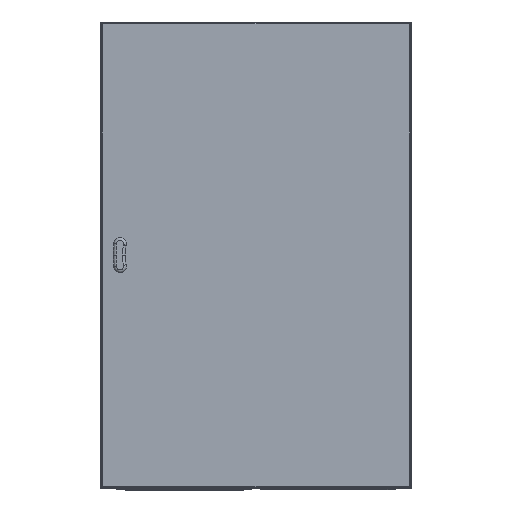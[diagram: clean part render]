
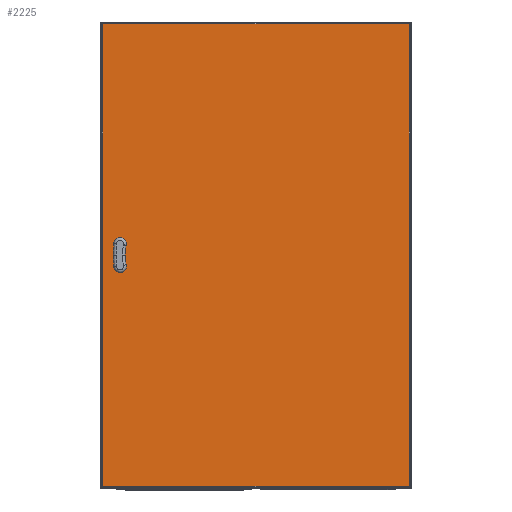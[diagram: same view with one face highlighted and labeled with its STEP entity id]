
A CAD part, top view. The second image highlights one B-rep face of the part: STEP entity #2225.
In plain terms, the highlighted planar face has unit normal (0, 0, 1) as drawn and (0, 0, -1) by its records, which use the part's own axes.
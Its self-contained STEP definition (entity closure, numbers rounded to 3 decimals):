
#33 = ORIENTED_EDGE ( 'NONE', *, *, #7364, .F. ) ;
#1031 = DIRECTION ( 'NONE',  ( 0., 0., -1. ) ) ;
#1175 = VECTOR ( 'NONE', #21022, 1000. ) ;
#1482 = PLANE ( 'NONE',  #7186 ) ;
#1913 = EDGE_CURVE ( 'NONE', #15333, #16109, #8285, .T. ) ;
#1915 = EDGE_CURVE ( 'NONE', #26753, #15801, #20453, .T. ) ;
#2225 = ADVANCED_FACE ( 'NONE', ( #3331, #15039 ), #1482, .T. ) ;
#2304 = ORIENTED_EDGE ( 'NONE', *, *, #1915, .T. ) ;
#3331 = FACE_BOUND ( 'NONE', #19597, .T. ) ;
#3387 = LINE ( 'NONE', #26487, #18587 ) ;
#3966 = VECTOR ( 'NONE', #16056, 1000. ) ;
#4436 = CARTESIAN_POINT ( 'NONE',  ( 395., 595., 0. ) ) ;
#4693 = CARTESIAN_POINT ( 'NONE',  ( -395., 597.5, 0. ) ) ;
#4793 = CARTESIAN_POINT ( 'NONE',  ( 362.5, -25., 0. ) ) ;
#5198 = CARTESIAN_POINT ( 'NONE',  ( 395., -597.5, 0. ) ) ;
#5204 = EDGE_CURVE ( 'NONE', #12394, #15333, #21651, .T. ) ;
#5261 = ORIENTED_EDGE ( 'NONE', *, *, #28775, .T. ) ;
#5335 = ORIENTED_EDGE ( 'NONE', *, *, #1913, .F. ) ;
#5770 = DIRECTION ( 'NONE',  ( 0., 1., 0. ) ) ;
#6262 = CARTESIAN_POINT ( 'NONE',  ( 362.5, 25., 0. ) ) ;
#6558 = CARTESIAN_POINT ( 'NONE',  ( 395., -595., 0. ) ) ;
#6689 = CARTESIAN_POINT ( 'NONE',  ( -397.5, -595., 0. ) ) ;
#7186 = AXIS2_PLACEMENT_3D ( 'NONE', #10906, #1031, #15496 ) ;
#7364 = EDGE_CURVE ( 'NONE', #11280, #12394, #3387, .T. ) ;
#7564 = CARTESIAN_POINT ( 'NONE',  ( -395., 595., 0. ) ) ;
#8127 = VECTOR ( 'NONE', #11080, 1000. ) ;
#8226 = CARTESIAN_POINT ( 'NONE',  ( 337.5, 25., 0. ) ) ;
#8285 = LINE ( 'NONE', #10773, #8127 ) ;
#9405 = EDGE_LOOP ( 'NONE', ( #28805, #2304, #23822, #5261 ) ) ;
#9676 = DIRECTION ( 'NONE',  ( 0., -1., 0. ) ) ;
#10258 = CARTESIAN_POINT ( 'NONE',  ( 337.5, 25., 0. ) ) ;
#10474 = DIRECTION ( 'NONE',  ( 1., 0., 0. ) ) ;
#10773 = CARTESIAN_POINT ( 'NONE',  ( 362.5, 25., 0. ) ) ;
#10906 = CARTESIAN_POINT ( 'NONE',  ( 397.5, 597.5, 0. ) ) ;
#11032 = EDGE_CURVE ( 'NONE', #15801, #18901, #11830, .T. ) ;
#11080 = DIRECTION ( 'NONE',  ( 1., 0., 0. ) ) ;
#11202 = VECTOR ( 'NONE', #5770, 1000. ) ;
#11280 = VERTEX_POINT ( 'NONE', #4793 ) ;
#11830 = LINE ( 'NONE', #5198, #26466 ) ;
#12394 = VERTEX_POINT ( 'NONE', #18222 ) ;
#12781 = DIRECTION ( 'NONE',  ( -1., 0., 0. ) ) ;
#13066 = CARTESIAN_POINT ( 'NONE',  ( 397.5, 595., 0. ) ) ;
#13501 = DIRECTION ( 'NONE',  ( 0., -1., 0. ) ) ;
#15039 = FACE_OUTER_BOUND ( 'NONE', #9405, .T. ) ;
#15333 = VERTEX_POINT ( 'NONE', #8226 ) ;
#15496 = DIRECTION ( 'NONE',  ( -1., 0., 0. ) ) ;
#15801 = VERTEX_POINT ( 'NONE', #4436 ) ;
#15811 = CARTESIAN_POINT ( 'NONE',  ( 362.5, 25., 0. ) ) ;
#16056 = DIRECTION ( 'NONE',  ( -1., 0., 0. ) ) ;
#16109 = VERTEX_POINT ( 'NONE', #15811 ) ;
#16150 = EDGE_CURVE ( 'NONE', #16109, #11280, #25197, .T. ) ;
#18154 = VERTEX_POINT ( 'NONE', #18193 ) ;
#18193 = CARTESIAN_POINT ( 'NONE',  ( -395., -595., 0. ) ) ;
#18222 = CARTESIAN_POINT ( 'NONE',  ( 337.5, -25., 0. ) ) ;
#18587 = VECTOR ( 'NONE', #12781, 1000. ) ;
#18901 = VERTEX_POINT ( 'NONE', #6558 ) ;
#19597 = EDGE_LOOP ( 'NONE', ( #27015, #33, #27575, #5335 ) ) ;
#19639 = VECTOR ( 'NONE', #13501, 1000. ) ;
#20453 = LINE ( 'NONE', #13066, #27795 ) ;
#21022 = DIRECTION ( 'NONE',  ( 0., 1., 0. ) ) ;
#21191 = LINE ( 'NONE', #4693, #1175 ) ;
#21651 = LINE ( 'NONE', #10258, #11202 ) ;
#22852 = LINE ( 'NONE', #6689, #3966 ) ;
#23314 = EDGE_CURVE ( 'NONE', #18154, #26753, #21191, .T. ) ;
#23822 = ORIENTED_EDGE ( 'NONE', *, *, #11032, .T. ) ;
#25197 = LINE ( 'NONE', #6262, #19639 ) ;
#26466 = VECTOR ( 'NONE', #9676, 1000. ) ;
#26487 = CARTESIAN_POINT ( 'NONE',  ( 362.5, -25., 0. ) ) ;
#26753 = VERTEX_POINT ( 'NONE', #7564 ) ;
#27015 = ORIENTED_EDGE ( 'NONE', *, *, #5204, .F. ) ;
#27575 = ORIENTED_EDGE ( 'NONE', *, *, #16150, .F. ) ;
#27795 = VECTOR ( 'NONE', #10474, 1000. ) ;
#28775 = EDGE_CURVE ( 'NONE', #18901, #18154, #22852, .T. ) ;
#28805 = ORIENTED_EDGE ( 'NONE', *, *, #23314, .T. ) ;
